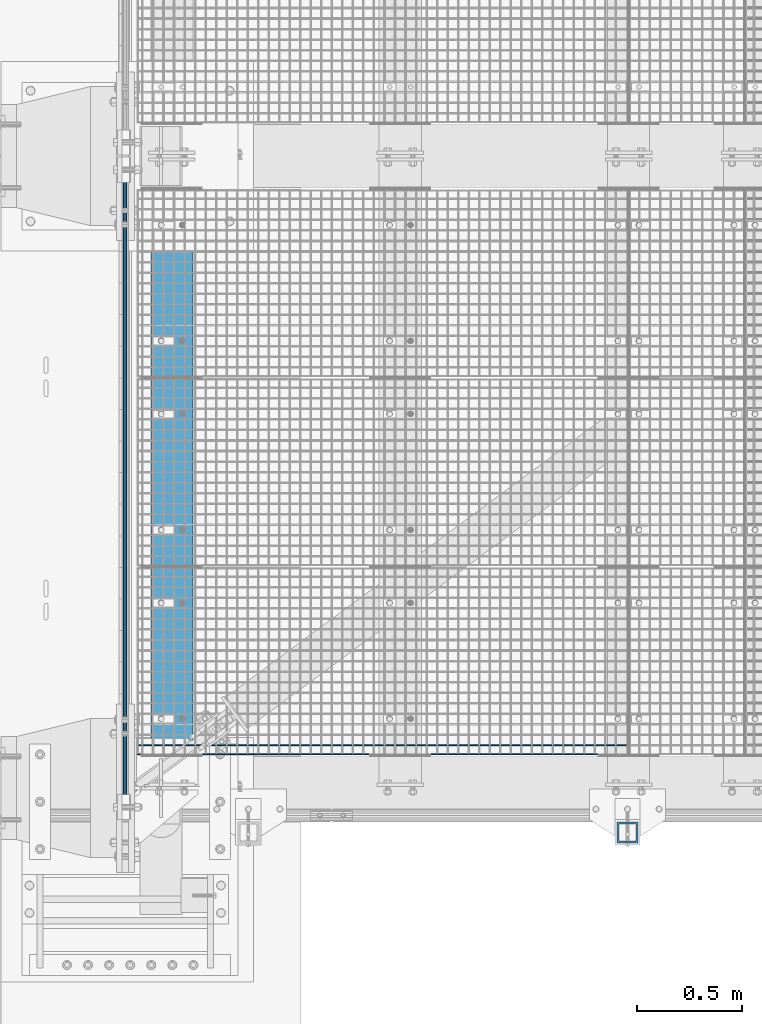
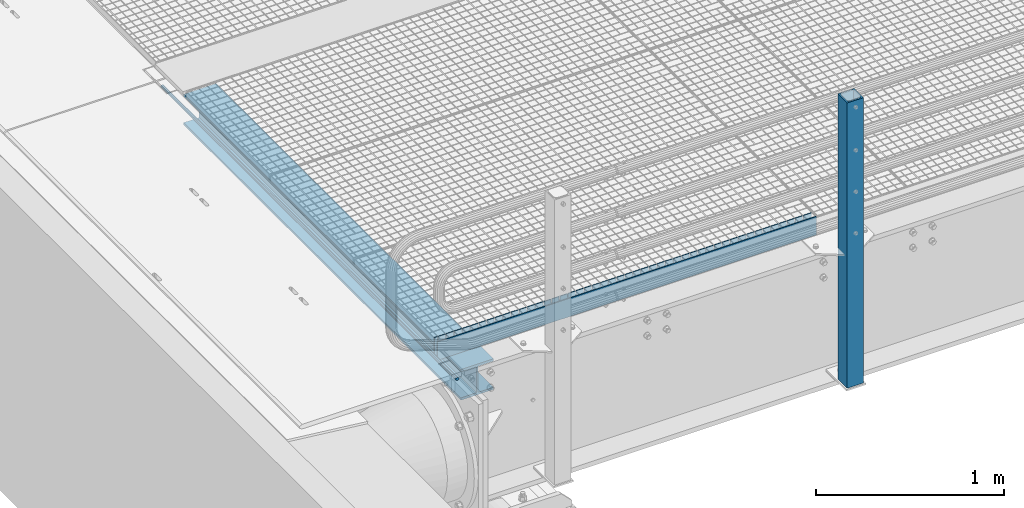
# One storey, part 121 of 1530: 5 beams.
"""IFC2X3 building model written with IfcOpenShell, lengths in millimetres."""

from ifc_helpers import new_model, si_unit, frame, origin_with_axes, place, context, subcontext, project, spatial, faceted_brep, material, type_object, element, save


model = new_model("IFC2X3")

# Units and contexts
model_context = context("Model", 3, precision=1e-05, world=origin_with_axes())
body_context = subcontext(model_context, "Body", "Model", "MODEL_VIEW")
ifc_project = project(units=[si_unit("LENGTHUNIT", "METRE", prefix="MILLI"), si_unit("AREAUNIT", "SQUARE_METRE"), si_unit("VOLUMEUNIT", "CUBIC_METRE"), si_unit("MASSUNIT", "GRAM", prefix="KILO"), si_unit("TIMEUNIT", "SECOND"), si_unit("PLANEANGLEUNIT", "RADIAN"), si_unit("SOLIDANGLEUNIT", "STERADIAN"), si_unit("THERMODYNAMICTEMPERATUREUNIT", "DEGREE_CELSIUS"), si_unit("LUMINOUSINTENSITYUNIT", "LUMEN")], contexts=[model_context])

# Site, building, storey
site_placement = place(None, origin_with_axes())
site = spatial("IfcSite", under=ifc_project, at=site_placement, Name="Brattvåg", CompositionType="ELEMENT")
building_placement = place(site_placement, origin_with_axes())
building = spatial("IfcBuilding", under=site, at=building_placement, Name="Undefined", CompositionType="ELEMENT")
storey_placement = place(building_placement, origin_with_axes())
storey = spatial("IfcBuildingStorey", under=building, at=storey_placement, Name="Undefined", CompositionType="ELEMENT", Elevation=0.0)

# Beams
ifc_material_1 = material(Name="STEEL/S355J2")
beam_type_1 = type_object("IfcBeamType", Name="120*5", PredefinedType="NOTDEFINED")
beam_1_placement = place(storey_placement, frame((2347.01317977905, 202.994873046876, -59.9998626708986), z_axis=(0.0, 0.0, 1.0), x_axis=(-1.0, 1.99999855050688e-09, 0.0)))
element("IfcBeam", 1, at=beam_1_placement, inside=storey, type_object=beam_type_1, material=ifc_material_1, Name="GRATING", context=body_context, shape_type="Brep", body=[
    faceted_brep([(99.4490367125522, -2.50000000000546, 60.0000722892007), (99.4490367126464, -2.50000000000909, 35.0001373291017), (99.4490367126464, 2.50022888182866, 35.0001373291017), (99.4490367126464, 2.5, 60.0), (104.449036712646, -2.50000000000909, 35.0001373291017), (104.449036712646, 2.50022888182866, 35.0001373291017), (104.449036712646, -2.50000000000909, 60.0001373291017), (104.449036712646, 2.5, 60.0), (54.5084370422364, -2.50000000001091, 60.0001373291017), (54.5084370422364, 2.5, 60.0), (54.5084370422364, 2.49999999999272, 35.0001373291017), (54.5084370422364, -2.50000000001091, 35.0001373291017), (49.5084370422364, 2.49999999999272, 35.0001373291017), (49.5084370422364, -2.50000000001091, 35.0001373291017), (49.5084370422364, -2.5, 60.0), (49.5084370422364, 2.5, 60.0), (0.0, 2.5, 60.0), (0.0, -2.5, 60.0), (0.0, -2.5, -60.0), (0.0, 2.5, -60.0), (2319.99865722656, 2.5, -60.0), (2319.99865722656, -2.5, -60.0), (2319.99865722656, -2.5, 60.0), (2319.99865722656, 2.5, 60.0), (2302.24871932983, 2.5, 60.0), (2302.24871932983, -2.50000000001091, 60.0001373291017), (2302.24871932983, 2.49999999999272, 35.0001373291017), (2302.24871932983, -2.50000000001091, 35.0001373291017), (2297.24871932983, 2.49999999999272, 35.0001373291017), (2297.24871932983, -2.50000000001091, 35.0001373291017), (2297.24871932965, -2.50000000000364, 60.0000461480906), (2297.24871932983, 2.5, 60.0), (2252.29859649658, 2.5, 60.0), (2252.29859649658, -2.50000000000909, 60.0001373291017), (2252.29859649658, 2.50022888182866, 35.0001373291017), (2252.29859649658, -2.50000000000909, 35.0001373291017), (2247.29859649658, 2.50022888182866, 35.0001373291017), (2247.29859649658, -2.50000000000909, 35.0001373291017), (2247.29859649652, -2.50000000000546, 60.0000848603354), (2247.29859649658, 2.5, 60.0), (2202.34847366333, 2.5, 60.0), (2202.34847366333, -2.50000000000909, 60.0001373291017), (2202.34847366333, 2.50022888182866, 35.0001373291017), (2202.34847366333, -2.50000000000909, 35.0001373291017), (2197.34847366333, 2.50022888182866, 35.0001373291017), (2197.34847366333, -2.50000000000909, 35.0001373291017), (2197.34847366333, -2.5, 60.0), (2197.34847366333, 2.5, 60.0), (2152.39882766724, 2.5, 60.0), (2152.39882766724, -2.50000000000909, 60.0001373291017), (2152.39882766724, 2.50022888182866, 35.0001373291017), (2152.39882766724, -2.50000000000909, 35.0001373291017), (2147.39882766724, 2.50022888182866, 35.0001373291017), (2147.39882766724, -2.50000000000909, 35.0001373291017), (2147.39882766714, -2.50000000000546, 60.0000722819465), (2147.39882766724, 2.5, 60.0), (2102.44870483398, 2.5, 60.0), (2102.44870483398, -2.50000000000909, 60.0001373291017), (2102.44870483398, 2.50022888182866, 35.0001373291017), (2102.44870483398, -2.50000000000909, 35.0001373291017), (2097.44870483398, 2.50022888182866, 35.0001373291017), (2097.44870483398, -2.50000000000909, 35.0001373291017), (2097.44870483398, -2.5, 60.0), (2097.44870483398, 2.5, 60.0), (2052.49858200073, 2.5, 60.0), (2052.49858200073, -2.50000000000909, 60.0001373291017), (2052.49858200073, 2.50022888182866, 35.0001373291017), (2052.49858200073, -2.50000000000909, 35.0001373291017), (2047.49858200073, 2.50022888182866, 35.0001373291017), (2047.49858200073, -2.50000000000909, 35.0001373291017), (2047.49858200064, -2.50000000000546, 60.0000722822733), (2047.49858200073, 2.5, 60.0), (2002.54845916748, 2.5, 60.0), (2002.54845916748, -2.50000000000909, 60.0001373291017), (2002.54845916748, 2.50022888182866, 35.0001373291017), (2002.54845916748, -2.50000000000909, 35.0001373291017), (1997.54845916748, 2.50022888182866, 35.0001373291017), (1997.54845916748, -2.50000000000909, 35.0001373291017), (1997.54845916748, -2.5, 60.0), (1997.54845916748, 2.5, 60.0), (1952.59881317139, 2.5, 60.0), (1952.59881317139, -2.50000000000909, 60.0001373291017), (1952.59881317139, 2.50022888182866, 35.0001373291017), (1952.59881317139, -2.50000000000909, 35.0001373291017), (1947.59881317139, 2.50022888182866, 35.0001373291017), (1947.59881317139, -2.50000000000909, 35.0001373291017), (1947.59881317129, -2.50000000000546, 60.0000722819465), (1947.59881317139, 2.5, 60.0), (1902.64869033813, 2.5, 60.0), (1902.64869033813, -2.50000000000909, 60.0001373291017), (1902.64869033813, 2.50022888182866, 35.0001373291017), (1902.64869033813, -2.50000000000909, 35.0001373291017), (1897.64869033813, 2.50022888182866, 35.0001373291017), (1897.64869033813, -2.50000000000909, 35.0001373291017), (1897.64869033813, -2.5, 60.0), (1897.64869033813, 2.5, 60.0), (1852.69856750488, 2.5, 60.0), (1852.69856750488, -2.50000000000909, 60.0001373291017), (1852.69856750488, 2.50022888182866, 35.0001373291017), (1852.69856750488, -2.50000000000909, 35.0001373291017), (1847.69856750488, 2.50022888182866, 35.0001373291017), (1847.69856750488, -2.50000000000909, 35.0001373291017), (1847.69856750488, -2.5, 60.0), (1847.69856750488, 2.5, 60.0), (1802.74892150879, 2.5, 60.0), (1802.74892150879, -2.50000000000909, 60.0001373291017), (1802.74892150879, 2.50022888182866, 35.0001373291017), (1802.74892150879, -2.50000000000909, 35.0001373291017), (1797.74892150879, 2.50022888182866, 35.0001373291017), (1797.74892150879, -2.50000000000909, 35.0001373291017), (1797.74892150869, -2.50000000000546, 60.0000722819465), (1797.74892150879, 2.5, 60.0), (1752.79879867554, 2.5, 60.0), (1752.79879867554, -2.50000000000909, 60.0001373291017), (1752.79879867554, 2.50022888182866, 35.0001373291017), (1752.79879867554, -2.50000000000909, 35.0001373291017), (1747.79879867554, 2.50022888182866, 35.0001373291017), (1747.79879867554, -2.50000000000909, 35.0001373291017), (1747.79879867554, -2.5, 60.0), (1747.79879867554, 2.5, 60.0), (1702.84867584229, 2.5, 60.0), (1702.84867584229, -2.50000000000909, 60.0001373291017), (1702.84867584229, 2.50022888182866, 35.0001373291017), (1702.84867584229, -2.50000000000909, 35.0001373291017), (1697.84867584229, 2.50022888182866, 35.0001373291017), (1697.84867584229, -2.50000000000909, 35.0001373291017), (1697.84867584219, -2.50000000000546, 60.0000722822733), (1697.84867584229, 2.5, 60.0), (1652.89855300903, 2.5, 60.0), (1652.89855300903, -2.50000000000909, 60.0001373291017), (1652.89855300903, 2.50022888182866, 35.0001373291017), (1652.89855300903, -2.50000000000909, 35.0001373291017), (1647.89855300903, 2.50022888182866, 35.0001373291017), (1647.89855300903, -2.50000000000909, 35.0001373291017), (1647.89855300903, -2.5, 60.0), (1647.89855300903, 2.5, 60.0), (1602.94890701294, 2.5, 60.0), (1602.94890701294, -2.50000000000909, 60.0001373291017), (1602.94890701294, 2.50022888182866, 35.0001373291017), (1602.94890701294, -2.50000000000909, 35.0001373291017), (1597.94890701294, 2.50022888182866, 35.0001373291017), (1597.94890701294, -2.50000000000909, 35.0001373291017), (1597.94890701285, -2.50000000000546, 60.0000722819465), (1597.94890701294, 2.5, 60.0), (1552.99878417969, 2.5, 60.0), (1552.99878417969, -2.50000000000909, 60.0001373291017), (1552.99878417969, 2.50022888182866, 35.0001373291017), (1552.99878417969, -2.50000000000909, 35.0001373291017), (1547.99878417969, 2.50022888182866, 35.0001373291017), (1547.99878417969, -2.50000000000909, 35.0001373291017), (1547.99878417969, -2.5, 60.0), (1547.99878417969, 2.5, 60.0), (1503.04866134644, 2.5, 60.0), (1503.04866134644, -2.50000000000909, 60.0001373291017), (1503.04866134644, 2.50022888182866, 35.0001373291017), (1503.04866134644, -2.50000000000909, 35.0001373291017), (1498.04866134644, 2.50022888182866, 35.0001373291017), (1498.04866134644, -2.50000000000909, 35.0001373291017), (1498.04866134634, -2.50000000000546, 60.0000722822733), (1498.04866134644, 2.5, 60.0), (1453.09853851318, 2.5, 60.0), (1453.09853851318, -2.50000000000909, 60.0001373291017), (1453.09853851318, 2.50022888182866, 35.0001373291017), (1453.09853851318, -2.50000000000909, 35.0001373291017), (1448.09853851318, 2.50022888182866, 35.0001373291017), (1448.09853851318, -2.50000000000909, 35.0001373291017), (1448.09853851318, -2.5, 60.0), (1448.09853851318, 2.5, 60.0), (1403.14889251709, 2.5, 60.0), (1403.14889251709, -2.50000000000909, 60.0001373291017), (1403.14889251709, 2.50022888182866, 35.0001373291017), (1403.14889251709, -2.50000000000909, 35.0001373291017), (1398.14889251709, 2.50022888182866, 35.0001373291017), (1398.14889251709, -2.50000000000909, 35.0001373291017), (1398.148892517, -2.50000000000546, 60.0000722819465), (1398.14889251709, 2.5, 60.0), (1353.19876968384, 2.5, 60.0), (1353.19876968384, -2.50000000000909, 60.0001373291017), (1353.19876968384, 2.50022888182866, 35.0001373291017), (1353.19876968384, -2.50000000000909, 35.0001373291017), (1348.19876968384, 2.50022888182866, 35.0001373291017), (1348.19876968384, -2.50000000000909, 35.0001373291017), (1348.19876968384, -2.5, 60.0), (1348.19876968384, 2.5, 60.0), (1303.24864685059, 2.5, 60.0), (1303.24864685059, -2.50000000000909, 60.0001373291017), (1303.24864685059, 2.50022888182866, 35.0001373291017), (1303.24864685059, -2.50000000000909, 35.0001373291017), (1298.24864685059, 2.50022888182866, 35.0001373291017), (1298.24864685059, -2.50000000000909, 35.0001373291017), (1298.24864685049, -2.50000000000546, 60.0000722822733), (1298.24864685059, 2.5, 60.0), (1253.29852401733, 2.5, 60.0), (1253.29852401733, -2.50000000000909, 60.0001373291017), (1253.29852401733, 2.50022888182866, 35.0001373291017), (1253.29852401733, -2.50000000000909, 35.0001373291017), (1248.29852401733, 2.50022888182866, 35.0001373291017), (1248.29852401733, -2.50000000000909, 35.0001373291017), (1248.29852401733, -2.5, 60.0), (1248.29852401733, 2.5, 60.0), (1203.34887802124, 2.5, 60.0), (1203.34887802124, -2.50000000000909, 60.0001373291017), (1203.34887802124, 2.50022888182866, 35.0001373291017), (1203.34887802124, -2.50000000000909, 35.0001373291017), (1198.34887802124, 2.50022888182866, 35.0001373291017), (1198.34887802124, -2.50000000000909, 35.0001373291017), (1198.34887802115, -2.50000000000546, 60.0000722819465), (1198.34887802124, 2.5, 60.0), (1153.39875518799, 2.5, 60.0), (1153.39875518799, -2.50000000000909, 60.0001373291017), (1153.39875518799, 2.50022888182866, 35.0001373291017), (1153.39875518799, -2.50000000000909, 35.0001373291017), (1148.39875518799, 2.50022888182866, 35.0001373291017), (1148.39875518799, -2.50000000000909, 35.0001373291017), (1148.39875518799, -2.5, 60.0), (1148.39875518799, 2.5, 60.0), (1103.44863235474, 2.5, 60.0), (1103.44863235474, -2.50000000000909, 60.0001373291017), (1103.44863235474, 2.50022888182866, 35.0001373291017), (1103.44863235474, -2.50000000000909, 35.0001373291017), (1098.44863235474, 2.50022888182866, 35.0001373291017), (1098.44863235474, -2.50000000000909, 35.0001373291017), (1098.44863235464, -2.50000000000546, 60.0000722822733), (1098.44863235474, 2.5, 60.0), (1053.49850952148, 2.5, 60.0), (1053.49850952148, -2.50000000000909, 60.0001373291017), (1053.49850952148, 2.50022888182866, 35.0001373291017), (1053.49850952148, -2.50000000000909, 35.0001373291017), (1048.49850952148, 2.50022888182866, 35.0001373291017), (1048.49850952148, -2.50000000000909, 35.0001373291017), (1048.49850952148, -2.5, 60.0), (1048.49850952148, 2.5, 60.0), (1003.54886352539, 2.5, 60.0), (1003.54886352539, -2.50000000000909, 60.0001373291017), (1003.54886352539, 2.50022888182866, 35.0001373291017), (1003.54886352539, -2.50000000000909, 35.0001373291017), (998.548863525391, 2.50022888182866, 35.0001373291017), (998.548863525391, -2.50000000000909, 35.0001373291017), (998.548863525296, -2.50000000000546, 60.0000722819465), (998.548863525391, 2.5, 60.0), (953.598740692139, 2.5, 60.0), (953.598740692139, -2.50000000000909, 60.0001373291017), (953.598740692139, 2.50022888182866, 35.0001373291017), (953.598740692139, -2.50000000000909, 35.0001373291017), (948.598740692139, 2.50022888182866, 35.0001373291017), (948.598740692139, -2.50000000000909, 35.0001373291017), (948.598740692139, -2.5, 60.0), (948.598740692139, 2.5, 60.0), (903.648617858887, 2.5, 60.0), (903.648617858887, -2.50000000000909, 60.0001373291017), (903.648617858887, 2.50022888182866, 35.0001373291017), (903.648617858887, -2.50000000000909, 35.0001373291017), (898.648617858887, 2.50022888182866, 35.0001373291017), (898.648617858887, -2.50000000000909, 35.0001373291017), (898.648617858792, -2.50000000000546, 60.0000722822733), (898.648617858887, 2.5, 60.0), (853.698495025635, 2.5, 60.0), (853.698495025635, -2.50000000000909, 60.0001373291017), (853.698495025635, 2.50022888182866, 35.0001373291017), (853.698495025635, -2.50000000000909, 35.0001373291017), (848.698495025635, 2.50022888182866, 35.0001373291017), (848.698495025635, -2.50000000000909, 35.0001373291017), (848.698495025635, -2.5, 60.0), (848.698495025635, 2.5, 60.0), (803.748849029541, 2.5, 60.0), (803.748849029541, -2.50000000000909, 60.0001373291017), (803.748849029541, 2.50022888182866, 35.0001373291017), (803.748849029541, -2.50000000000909, 35.0001373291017), (798.748849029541, 2.50022888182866, 35.0001373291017), (798.748849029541, -2.50000000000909, 35.0001373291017), (798.748849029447, -2.50000000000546, 60.0000722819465), (798.748849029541, 2.5, 60.0), (753.798726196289, 2.5, 60.0), (753.798726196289, -2.50000000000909, 60.0001373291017), (753.798726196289, 2.50022888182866, 35.0001373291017), (753.798726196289, -2.50000000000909, 35.0001373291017), (748.798726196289, 2.50022888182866, 35.0001373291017), (748.798726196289, -2.50000000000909, 35.0001373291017), (748.798726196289, -2.5, 60.0), (748.798726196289, 2.5, 60.0), (703.848603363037, 2.5, 60.0), (703.848603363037, -2.50000000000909, 60.0001373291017), (703.848603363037, 2.50022888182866, 35.0001373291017), (703.848603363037, -2.50000000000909, 35.0001373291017), (698.848603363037, 2.50022888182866, 35.0001373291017), (698.848603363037, -2.50000000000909, 35.0001373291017), (698.848603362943, -2.50000000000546, 60.0000722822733), (698.848603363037, 2.5, 60.0), (653.898480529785, 2.5, 60.0), (653.898480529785, -2.50000000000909, 60.0001373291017), (653.898480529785, 2.50022888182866, 35.0001373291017), (653.898480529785, -2.50000000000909, 35.0001373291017), (648.898480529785, 2.50022888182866, 35.0001373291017), (648.898480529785, -2.50000000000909, 35.0001373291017), (648.898480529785, -2.5, 60.0), (648.898480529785, 2.5, 60.0), (603.948834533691, 2.5, 60.0), (603.948834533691, -2.50000000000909, 60.0001373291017), (603.948834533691, 2.50022888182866, 35.0001373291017), (603.948834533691, -2.50000000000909, 35.0001373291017), (598.948834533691, 2.50022888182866, 35.0001373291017), (598.948834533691, -2.50000000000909, 35.0001373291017), (598.948834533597, -2.50000000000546, 60.0000722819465), (598.948834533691, 2.5, 60.0), (553.998711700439, 2.5, 60.0), (553.998711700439, -2.50000000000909, 60.0001373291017), (553.998711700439, 2.50022888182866, 35.0001373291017), (553.998711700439, -2.50000000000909, 35.0001373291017), (548.998711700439, 2.50022888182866, 35.0001373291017), (548.998711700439, -2.50000000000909, 35.0001373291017), (548.998711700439, -2.5, 60.0), (548.998711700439, 2.5, 60.0), (504.048588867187, 2.5, 60.0), (504.048588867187, -2.50000000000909, 60.0001373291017), (504.048588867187, 2.50022888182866, 35.0001373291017), (504.048588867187, -2.50000000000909, 35.0001373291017), (499.048588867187, 2.50022888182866, 35.0001373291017), (499.048588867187, -2.50000000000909, 35.0001373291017), (499.048588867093, -2.50000000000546, 60.0000722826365), (499.048588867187, 2.5, 60.0), (454.098942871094, 2.5, 60.0), (454.098942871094, -2.50000000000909, 60.0001373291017), (454.098942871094, 2.50022888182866, 35.0001373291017), (454.098942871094, -2.50000000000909, 35.0001373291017), (449.098942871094, 2.50022888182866, 35.0001373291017), (449.098942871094, -2.50000000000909, 35.0001373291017), (449.098942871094, -2.5, 60.0), (449.098942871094, 2.5, 60.0), (404.148820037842, 2.5, 60.0), (404.148820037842, -2.50000000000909, 60.0001373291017), (404.148820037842, 2.50022888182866, 35.0001373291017), (404.148820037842, -2.50000000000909, 35.0001373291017), (399.148820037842, 2.50022888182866, 35.0001373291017), (399.148820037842, -2.50000000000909, 35.0001373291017), (399.148820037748, -2.50000000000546, 60.0000722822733), (399.148820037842, 2.5, 60.0), (354.19869720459, 2.5, 60.0), (354.19869720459, -2.50000000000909, 60.0001373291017), (354.19869720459, 2.50022888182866, 35.0001373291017), (354.19869720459, -2.50000000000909, 35.0001373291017), (349.19869720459, 2.50022888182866, 35.0001373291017), (349.19869720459, -2.50000000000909, 35.0001373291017), (349.19869720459, -2.5, 60.0), (349.19869720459, 2.5, 60.0), (304.248574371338, 2.5, 60.0), (304.248574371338, -2.50000000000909, 60.0001373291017), (304.248574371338, 2.50022888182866, 35.0001373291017), (304.248574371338, -2.50000000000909, 35.0001373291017), (299.248574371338, 2.50022888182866, 35.0001373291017), (299.248574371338, -2.50000000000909, 35.0001373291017), (299.248574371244, -2.50000000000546, 60.0000722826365), (299.248574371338, 2.5, 60.0), (254.298928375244, 2.5, 60.0), (254.298928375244, -2.50000000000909, 60.0001373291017), (254.298928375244, 2.50022888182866, 35.0001373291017), (254.298928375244, -2.50000000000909, 35.0001373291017), (249.298928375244, 2.50022888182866, 35.0001373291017), (249.298928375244, -2.50000000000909, 35.0001373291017), (249.298928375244, -2.5, 60.0), (249.298928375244, 2.5, 60.0), (204.348328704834, 2.5, 60.0), (204.348328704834, -2.50000000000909, 60.0001373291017), (204.348328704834, 2.50022888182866, 35.0001373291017), (204.348328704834, -2.50000000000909, 35.0001373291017), (199.348328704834, 2.50022888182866, 35.0001373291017), (199.348328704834, -2.50000000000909, 35.0001373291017), (199.34832870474, -2.50000000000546, 60.0000722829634), (199.348328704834, 2.5, 60.0), (154.39868270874, 2.5, 60.0), (154.39868270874, -2.50000000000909, 60.0001373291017), (154.39868270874, 2.50022888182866, 35.0001373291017), (154.39868270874, -2.50000000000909, 35.0001373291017), (149.39868270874, 2.50022888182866, 35.0001373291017), (149.39868270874, -2.50000000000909, 35.0001373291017), (149.39868270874, -2.5, 60.0), (149.39868270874, 2.5, 60.0)], [[[0, 1, 2, 3]], [[4, 5, 2, 1]], [[6, 7, 5, 4]], [[8, 9, 10, 11]], [[11, 10, 12, 13]], [[14, 13, 12, 15]], [[16, 17, 14, 15]], [[18, 17, 16, 19]], [[18, 19, 20, 21]], [[22, 21, 20, 23]], [[22, 23, 24, 25]], [[25, 24, 26, 27]], [[27, 26, 28, 29]], [[30, 29, 28, 31]], [[32, 33, 30, 31]], [[33, 32, 34, 35]], [[35, 34, 36, 37]], [[38, 37, 36, 39]], [[40, 41, 38, 39]], [[41, 40, 42, 43]], [[43, 42, 44, 45]], [[46, 45, 44, 47]], [[46, 47, 48, 49]], [[49, 48, 50, 51]], [[51, 50, 52, 53]], [[54, 53, 52, 55]], [[56, 57, 54, 55]], [[57, 56, 58, 59]], [[59, 58, 60, 61]], [[62, 61, 60, 63]], [[62, 63, 64, 65]], [[65, 64, 66, 67]], [[67, 66, 68, 69]], [[70, 69, 68, 71]], [[72, 73, 70, 71]], [[73, 72, 74, 75]], [[75, 74, 76, 77]], [[78, 77, 76, 79]], [[78, 79, 80, 81]], [[81, 80, 82, 83]], [[83, 82, 84, 85]], [[86, 85, 84, 87]], [[88, 89, 86, 87]], [[89, 88, 90, 91]], [[91, 90, 92, 93]], [[94, 93, 92, 95]], [[94, 95, 96, 97]], [[97, 96, 98, 99]], [[99, 98, 100, 101]], [[102, 101, 100, 103]], [[102, 103, 104, 105]], [[105, 104, 106, 107]], [[107, 106, 108, 109]], [[110, 109, 108, 111]], [[112, 113, 110, 111]], [[113, 112, 114, 115]], [[115, 114, 116, 117]], [[118, 117, 116, 119]], [[118, 119, 120, 121]], [[121, 120, 122, 123]], [[123, 122, 124, 125]], [[126, 125, 124, 127]], [[128, 129, 126, 127]], [[129, 128, 130, 131]], [[131, 130, 132, 133]], [[134, 133, 132, 135]], [[134, 135, 136, 137]], [[137, 136, 138, 139]], [[139, 138, 140, 141]], [[142, 141, 140, 143]], [[144, 145, 142, 143]], [[145, 144, 146, 147]], [[147, 146, 148, 149]], [[150, 149, 148, 151]], [[150, 151, 152, 153]], [[153, 152, 154, 155]], [[155, 154, 156, 157]], [[158, 157, 156, 159]], [[160, 161, 158, 159]], [[161, 160, 162, 163]], [[163, 162, 164, 165]], [[166, 165, 164, 167]], [[166, 167, 168, 169]], [[169, 168, 170, 171]], [[171, 170, 172, 173]], [[174, 173, 172, 175]], [[176, 177, 174, 175]], [[177, 176, 178, 179]], [[179, 178, 180, 181]], [[182, 181, 180, 183]], [[182, 183, 184, 185]], [[185, 184, 186, 187]], [[187, 186, 188, 189]], [[190, 189, 188, 191]], [[192, 193, 190, 191]], [[193, 192, 194, 195]], [[195, 194, 196, 197]], [[198, 197, 196, 199]], [[198, 199, 200, 201]], [[201, 200, 202, 203]], [[203, 202, 204, 205]], [[206, 205, 204, 207]], [[208, 209, 206, 207]], [[209, 208, 210, 211]], [[211, 210, 212, 213]], [[214, 213, 212, 215]], [[214, 215, 216, 217]], [[217, 216, 218, 219]], [[219, 218, 220, 221]], [[222, 221, 220, 223]], [[224, 225, 222, 223]], [[225, 224, 226, 227]], [[227, 226, 228, 229]], [[230, 229, 228, 231]], [[230, 231, 232, 233]], [[233, 232, 234, 235]], [[235, 234, 236, 237]], [[238, 237, 236, 239]], [[240, 241, 238, 239]], [[241, 240, 242, 243]], [[243, 242, 244, 245]], [[246, 245, 244, 247]], [[246, 247, 248, 249]], [[249, 248, 250, 251]], [[251, 250, 252, 253]], [[254, 253, 252, 255]], [[256, 257, 254, 255]], [[257, 256, 258, 259]], [[259, 258, 260, 261]], [[262, 261, 260, 263]], [[262, 263, 264, 265]], [[265, 264, 266, 267]], [[267, 266, 268, 269]], [[270, 269, 268, 271]], [[272, 273, 270, 271]], [[273, 272, 274, 275]], [[275, 274, 276, 277]], [[278, 277, 276, 279]], [[278, 279, 280, 281]], [[281, 280, 282, 283]], [[283, 282, 284, 285]], [[286, 285, 284, 287]], [[288, 289, 286, 287]], [[289, 288, 290, 291]], [[291, 290, 292, 293]], [[294, 293, 292, 295]], [[294, 295, 296, 297]], [[297, 296, 298, 299]], [[299, 298, 300, 301]], [[302, 301, 300, 303]], [[304, 305, 302, 303]], [[305, 304, 306, 307]], [[307, 306, 308, 309]], [[310, 309, 308, 311]], [[310, 311, 312, 313]], [[313, 312, 314, 315]], [[315, 314, 316, 317]], [[318, 317, 316, 319]], [[320, 321, 318, 319]], [[321, 320, 322, 323]], [[323, 322, 324, 325]], [[326, 325, 324, 327]], [[326, 327, 328, 329]], [[329, 328, 330, 331]], [[331, 330, 332, 333]], [[334, 333, 332, 335]], [[336, 337, 334, 335]], [[337, 336, 338, 339]], [[339, 338, 340, 341]], [[342, 341, 340, 343]], [[342, 343, 344, 345]], [[345, 344, 346, 347]], [[347, 346, 348, 349]], [[350, 349, 348, 351]], [[352, 353, 350, 351]], [[353, 352, 354, 355]], [[355, 354, 356, 357]], [[358, 357, 356, 359]], [[358, 359, 360, 361]], [[361, 360, 362, 363]], [[363, 362, 364, 365]], [[366, 365, 364, 367]], [[368, 369, 366, 367]], [[369, 368, 370, 371]], [[371, 370, 372, 373]], [[374, 373, 372, 375]], [[1, 0, 8, 11, 13, 14, 17, 18, 21, 22, 25, 27, 29, 30, 33, 35, 37, 38, 41, 43, 45, 46, 49, 51, 53, 54, 57, 59, 61, 62, 65, 67, 69, 70, 73, 75, 77, 78, 81, 83, 85, 86, 89, 91, 93, 94, 97, 99, 101, 102, 105, 107, 109, 110, 113, 115, 117, 118, 121, 123, 125, 126, 129, 131, 133, 134, 137, 139, 141, 142, 145, 147, 149, 150, 153, 155, 157, 158, 161, 163, 165, 166, 169, 171, 173, 174, 177, 179, 181, 182, 185, 187, 189, 190, 193, 195, 197, 198, 201, 203, 205, 206, 209, 211, 213, 214, 217, 219, 221, 222, 225, 227, 229, 230, 233, 235, 237, 238, 241, 243, 245, 246, 249, 251, 253, 254, 257, 259, 261, 262, 265, 267, 269, 270, 273, 275, 277, 278, 281, 283, 285, 286, 289, 291, 293, 294, 297, 299, 301, 302, 305, 307, 309, 310, 313, 315, 317, 318, 321, 323, 325, 326, 329, 331, 333, 334, 337, 339, 341, 342, 345, 347, 349, 350, 353, 355, 357, 358, 361, 363, 365, 366, 369, 371, 373, 374, 6, 4]], [[9, 8, 0, 3]], [[375, 372, 370, 368, 367, 364, 362, 360, 359, 356, 354, 352, 351, 348, 346, 344, 343, 340, 338, 336, 335, 332, 330, 328, 327, 324, 322, 320, 319, 316, 314, 312, 311, 308, 306, 304, 303, 300, 298, 296, 295, 292, 290, 288, 287, 284, 282, 280, 279, 276, 274, 272, 271, 268, 266, 264, 263, 260, 258, 256, 255, 252, 250, 248, 247, 244, 242, 240, 239, 236, 234, 232, 231, 228, 226, 224, 223, 220, 218, 216, 215, 212, 210, 208, 207, 204, 202, 200, 199, 196, 194, 192, 191, 188, 186, 184, 183, 180, 178, 176, 175, 172, 170, 168, 167, 164, 162, 160, 159, 156, 154, 152, 151, 148, 146, 144, 143, 140, 138, 136, 135, 132, 130, 128, 127, 124, 122, 120, 119, 116, 114, 112, 111, 108, 106, 104, 103, 100, 98, 96, 95, 92, 90, 88, 87, 84, 82, 80, 79, 76, 74, 72, 71, 68, 66, 64, 63, 60, 58, 56, 55, 52, 50, 48, 47, 44, 42, 40, 39, 36, 34, 32, 31, 28, 26, 24, 23, 20, 19, 16, 15, 12, 10, 9, 3, 2, 5, 7]], [[374, 375, 7, 6]]]),
])
beam_2_placement = place(storey_placement, frame((22.010671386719, 161.498687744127, -59.9998626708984), z_axis=(0.0, 0.0, 1.0), x_axis=(1.0, 0.0, 0.0)))
element("IfcBeam", 2, at=beam_2_placement, inside=storey, type_object=beam_type_1, material=ifc_material_1, Name="GRATING", context=body_context, shape_type="Brep", body=[
    faceted_brep([(0.0, 2.5, -60.0), (0.0, 2.5, 60.0), (2329.99832153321, 2.5, 60.0), (2329.99832153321, 2.5, -60.0), (0.0, -2.5, 60.0), (2329.99832153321, -2.5, 60.0), (0.0, -2.5, -60.0), (2329.99832153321, -2.5, -60.0)], [[[0, 1, 2, 3]], [[1, 4, 5, 2]], [[4, 6, 7, 5]], [[6, 0, 3, 7]], [[5, 7, 3, 2]], [[6, 4, 1, 0]]]),
])
ifc_material_2 = material(Name="STEEL/S355J2+N")
beam_type_2 = type_object("IfcBeamType", Name="HEB200", PredefinedType="NOTDEFINED")
beam_3_placement = place(storey_placement, frame((187.001129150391, 23.0015563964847, -219.998931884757), z_axis=(0.0, 0.0, 1.0), x_axis=(0.0, 1.0, 0.0)))
element("IfcBeam", 3, at=beam_3_placement, inside=storey, type_object=beam_type_2, material=ifc_material_2, Name="STÅLBJELKE", context=body_context, shape_type="Brep", body=[
    faceted_brep([(0.0, 100.0, -100.0), (0.0, 100.0, -85.0), (2953.99993896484, 100.0, -85.0), (2953.99993896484, 100.0, -100.0), (0.0, 4.5, -85.0), (2953.99993896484, 4.5, -85.0), (0.0, 4.5, 85.0), (2953.99993896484, 4.5, 85.0), (0.0, 100.0, 85.0), (2953.99993896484, 100.0, 85.0), (0.0, 100.0, 100.0), (2953.99993896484, 100.0, 100.0), (0.0, -100.0, 100.0), (2953.99993896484, -100.0, 100.0), (0.0, -100.0, 85.0), (2953.99993896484, -100.0, 85.0), (0.0, -4.5, 85.0), (2953.99993896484, -4.5, 85.0), (0.0, -4.5, -85.0), (2953.99993896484, -4.5, -85.0), (0.0, -100.0, -85.0), (2953.99993896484, -100.0, -85.0), (0.0, -100.0, -100.0), (2953.99993896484, -100.0, -100.0)], [[[0, 1, 2, 3]], [[1, 4, 5, 2]], [[4, 6, 7, 5]], [[6, 8, 9, 7]], [[8, 10, 11, 9]], [[10, 12, 13, 11]], [[12, 14, 15, 13]], [[14, 16, 17, 15]], [[16, 18, 19, 17]], [[18, 20, 21, 19]], [[20, 22, 23, 21]], [[22, 0, 3, 23]], [[5, 7, 9, 11, 13, 15, 17, 19, 21, 23, 3, 2]], [[22, 20, 18, 16, 14, 12, 10, 8, 6, 4, 1, 0]]]),
])
ifc_material_3 = material(Name="STEEL/S355J2H")
beam_type_3 = type_object("IfcBeamType", Name="RHS100*10", PredefinedType="NOTDEFINED")
beam_4_placement = place(storey_placement, frame((2350.00016021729, -209.999721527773, -844.999801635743), z_axis=(-1.0, 1.99999855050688e-09, 0.0), x_axis=(0.0, 0.0, 1.0)))
element("IfcBeam", 4, at=beam_4_placement, inside=storey, type_object=beam_type_3, material=ifc_material_3, Name="STÅLBJELKE", context=body_context, shape_type="Brep", body=[
    faceted_brep([(0.0, 40.0, -40.0), (0.0, -40.0, -40.0), (1855.00001907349, -40.0, -40.0), (1855.00001907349, 40.0, -40.0), (0.0, -40.0, 40.0), (1855.00001907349, -40.0, 40.0), (0.0, 40.0, 40.0), (1855.00001907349, 40.0, 40.0), (0.0, 50.0, -50.0), (0.0, 50.0, 50.0), (1855.00001907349, 50.0, 50.0), (1855.00001907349, 50.0, -50.0), (0.0, -50.0, 50.0), (1855.00001907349, -50.0, 50.0), (0.0, -50.0, -50.0), (1855.00001907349, -50.0, -50.0)], [[[0, 1, 2, 3]], [[1, 4, 5, 2]], [[4, 6, 7, 5]], [[6, 0, 3, 7]], [[8, 9, 10, 11]], [[9, 12, 13, 10]], [[12, 14, 15, 13]], [[14, 8, 11, 15]], [[13, 15, 11, 10], [5, 7, 3, 2]], [[14, 12, 9, 8], [6, 4, 1, 0]]]),
])
ifc_material_4 = material(Name="STEEL/S355N")
beam_type_4 = type_object("IfcBeamType", Name="D20", PredefinedType="NOTDEFINED")
beam_5_placement = place(storey_placement, frame((-34.9995994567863, -149.999999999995, -35.001039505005), z_axis=(0.0, 0.0, 1.0), x_axis=(0.0, 1.0, 0.0)))
element("IfcBeam", 5, at=beam_5_placement, inside=storey, type_object=beam_type_4, material=ifc_material_4, Name="STÅLBJELKE", context=body_context, shape_type="Brep", body=[
    faceted_brep([(0.0, -10.0, 0.0), (0.0, -7.07106781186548, -7.07106781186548), (3145.0, -7.07106781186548, -7.07106781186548), (3145.0, -10.0, 0.0), (3.09790571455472e-12, 0.0, -10.0), (3145.0, 0.0, -10.0), (0.0, 7.07106781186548, -7.07106781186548), (3145.0, 7.07106781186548, -7.07106781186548), (0.0, 10.0, 0.0), (3145.0, 10.0, 0.0), (0.0, 7.07106781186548, 7.07106781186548), (3145.0, 7.07106781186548, 7.07106781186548), (-1.03633598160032e-12, 0.0, 10.0), (3145.0, 0.0, 10.0), (0.0, -7.07106781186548, 7.07106781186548), (3145.0, -7.07106781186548, 7.07106781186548)], [[[0, 1, 2, 3]], [[1, 4, 5, 2]], [[4, 6, 7, 5]], [[6, 8, 9, 7]], [[8, 10, 11, 9]], [[10, 12, 13, 11]], [[12, 14, 15, 13]], [[14, 0, 3, 15]], [[5, 7, 9, 11, 13, 15, 3, 2]], [[14, 12, 10, 8, 6, 4, 1, 0]]]),
])

save(model, "model.ifc")
